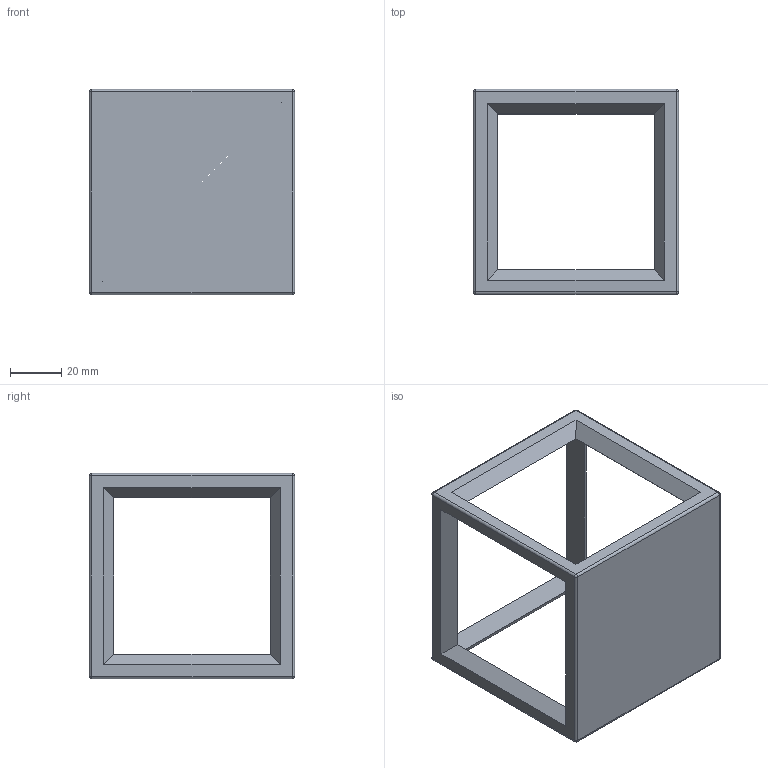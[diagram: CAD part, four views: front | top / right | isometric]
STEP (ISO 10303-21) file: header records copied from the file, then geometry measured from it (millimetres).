
FILE_DESCRIPTION (( 'STEP AP203' ), '1' );
FILE_NAME ('penholder_perspective.STEP', '2016-11-28T21:29:26', ( '' ), ( '' ), 'SwSTEP 2.0', 'SolidWorks 2016', '' );
FILE_SCHEMA (( 'CONFIG_CONTROL_DESIGN' ));
Length unit declared in the file: millimetre
Products named in the file (1): penholder_perspective
Bounding box: 80 x 80 x 80 mm (x, y, z)
Volume: 60103.6 mm3; surface area: 31861.3 mm2
Topology: 1 solids, 1 shells, 47 faces, 116 edges, 64 vertices
Faces by surface type: plane 27, cylinder 12, sphere 8
Entity records: 1387 total; most frequent: DIRECTION 228, CARTESIAN_POINT 220, ORIENTED_EDGE 216, EDGE_CURVE 108, VECTOR 84, LINE 84, AXIS2_PLACEMENT_3D 72, VERTEX_POINT 64
